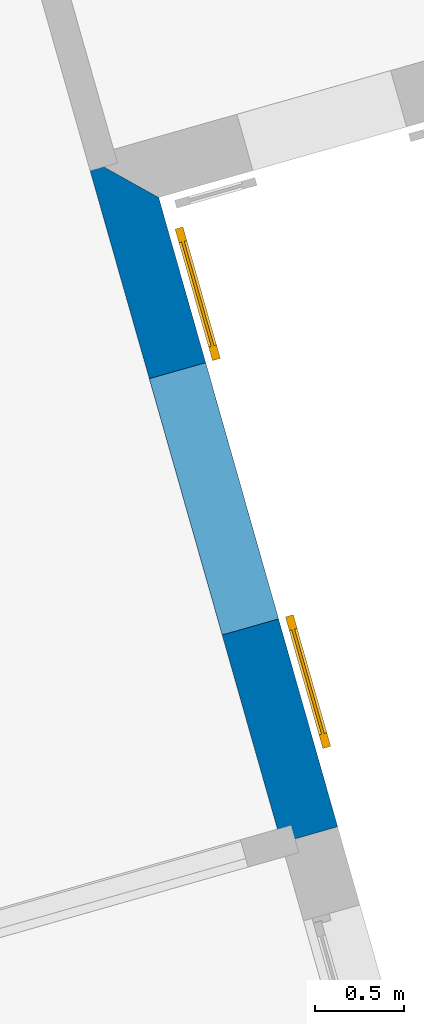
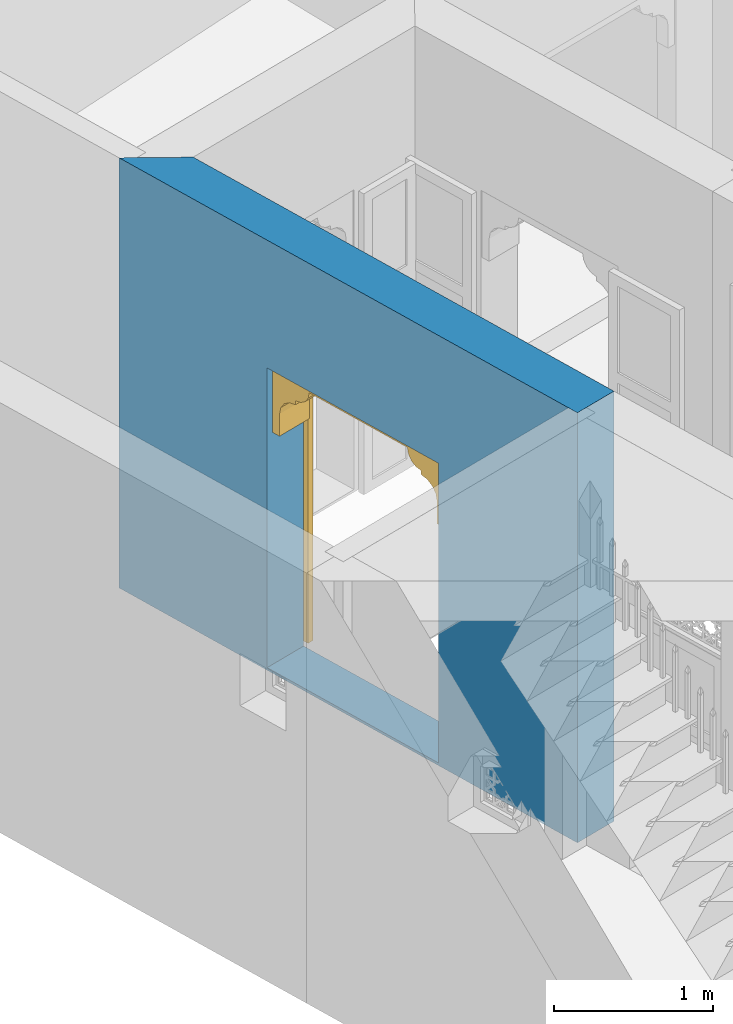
# One storey, part 5 of 14: 1 door, 1 wall, 1 opening.
"""IFC4 building model written with IfcOpenShell, lengths in metres."""

from ifc_helpers import new_model, si_unit, frame, origin, origin_with_axes, place, context, subcontext, project, spatial, polyline, outline, extrude, faceted_brep, source, transform, mapped, material, layer, layer_set, layer_usage, type_object, type_shapes, element, fill, save


model = new_model("IFC4")

# Units and contexts
model_context = context("Model", 3, world=origin_with_axes())
body_context = subcontext(model_context, "Body", "Model", "MODEL_VIEW")
ifc_project = project(units=[si_unit("PLANEANGLEUNIT", "RADIAN"), si_unit("MASSUNIT", "GRAM", prefix="KILO"), si_unit("FORCEUNIT", "NEWTON", prefix="KILO"), si_unit("LENGTHUNIT", "METRE"), si_unit("AREAUNIT", "SQUARE_METRE"), si_unit("VOLUMEUNIT", "CUBIC_METRE")], contexts=[model_context, model_context])

# Site, building, storey
site_placement = place(None, origin_with_axes())
site = spatial("IfcSite", under=ifc_project, at=site_placement, Name="Site plot-3", CompositionType="ELEMENT")
building_placement = place(None, origin_with_axes())
building = spatial("IfcBuilding", under=site, at=building_placement, Name="Building plot-3", CompositionType="ELEMENT")
storey_placement = place(None, origin_with_axes())
storey = spatial("IfcBuildingStorey", under=building, at=storey_placement, Name="plot-3 0", CompositionType="ELEMENT", Elevation=0.0)

# Wall, opening, door
ifc_material = material(Name="Masonry")
ifc_layer = layer(ifc_material, 0.33, ventilated=False)
ifc_layer_set = layer_set([ifc_layer], Name="exterior_0.08_0.25")
ifc_layer_usage = layer_usage(ifc_layer_set, "AXIS2", "POSITIVE", -0.25)
wall_type = type_object("IfcWallType", Name="exterior_0.08_0.25", PredefinedType="SOLIDWALL", material=ifc_layer_set)
wall_placement = place(storey_placement, frame((11.135823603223, 21.3489503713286, 0.0), z_axis=(0.0, 0.0, 1.0), x_axis=(-0.273606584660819, 0.961841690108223, 0.0)))
wall = element("IfcWall", 1, at=wall_placement, inside=storey, type_object=wall_type, material=ifc_layer_usage, Name="exterior", context=body_context, shape_type="SweptSolid", body=[
    extrude(outline(polyline([(-4.29388496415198e-15, 0.0799999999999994), (1.28938951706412e-14, -0.25), (3.68376585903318, -0.250000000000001), (4.01376585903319, 0.0800000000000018), (-4.29388496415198e-15, 0.0799999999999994)])), origin_with_axes(), (0.0, 0.0, 1.0), 3.3),
])
opening_placement = place(wall_placement, frame((1.21688292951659, 0.0, 0.02)))
opening = element("IfcOpeningElement", 2, at=opening_placement, cuts=wall, Name="My Opening", ObjectType="Opening", context=body_context, shape_type="SweptSolid", body=[
    extrude(outline(polyline([(0.0, -0.27), (1.5, -0.269999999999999), (1.5, 1.1), (-6.66133814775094e-16, 1.1), (0.0, -0.27)])), origin_with_axes(), (0.0, 0.0, 1.0), 2.3),
])
door_type = type_object("IfcDoorType", Name="arch-1500x2300", OperationType="SINGLE_SWING_LEFT", PredefinedType="NOTDEFINED")
shared_shape = source(origin(), body_context, "Body", "Brep", [
    faceted_brep([(-0.08, -0.02, 0.08), (-0.08, -0.02, 0.0), (-0.69, -0.02, 0.0), (-0.69, -0.02, 0.08), (-0.77, -0.02, 0.0), (-0.77, -0.02, 0.08), (-0.69, -0.035, 0.08), (-0.08, -0.035, 0.08), (0.0, -0.02, 0.08), (0.0, -0.02, 0.0), (-0.08, -0.066, 0.0), (-0.69, -0.066, 0.0), (-0.77, -0.066, 0.0), (-0.77, -0.066, 0.08), (-0.69, -0.02, 0.743333), (-0.77, -0.02, 0.743333), (-0.69, -0.035, 0.743333), (-0.08, -0.035, 0.743333), (-0.08, -0.02, 0.743333), (0.0, -0.02, 0.743333), (0.0, -0.066, 0.08), (0.0, -0.066, 0.0), (-0.69, -0.066, 0.08), (-0.08, -0.066, 0.08), (-0.77, -0.066, 0.743333), (-0.69, -0.02, 0.823333), (-0.77, -0.02, 0.823333), (0.0, -0.066, 0.743333), (0.0, -0.02, 0.823333), (-0.08, -0.02, 0.823333), (-0.08, -0.051, 0.08), (-0.69, -0.051, 0.08), (-0.69, -0.066, 0.743333), (-0.77, -0.066, 0.823333), (-0.69, -0.02, 1.486667), (-0.77, -0.02, 1.486667), (0.0, -0.066, 0.823333), (-0.08, -0.066, 0.743333), (0.0, -0.02, 1.486667), (-0.08, -0.02, 1.486667), (-0.08, -0.051, 0.743333), (-0.69, -0.051, 0.743333), (-0.69, -0.066, 0.823333), (-0.77, -0.066, 1.486667), (-0.69, -0.035, 0.823333), (-0.08, -0.035, 0.823333), (-0.69, -0.035, 1.486667), (-0.69, -0.02, 1.566667), (-0.77, -0.02, 1.566667), (0.0, -0.066, 1.486667), (-0.08, -0.066, 0.823333), (-0.08, -0.035, 1.486667), (0.0, -0.02, 1.566667), (-0.08, -0.02, 1.566667), (-0.69, -0.066, 1.486667), (-0.77, -0.066, 1.566667), (-0.69, -0.02, 2.23), (-0.77, -0.02, 2.23), (0.0, -0.066, 1.566667), (-0.08, -0.066, 1.486667), (0.0, -0.02, 2.23), (-0.08, -0.02, 2.23), (-0.08, -0.051, 0.823333), (-0.69, -0.051, 0.823333), (-0.69, -0.051, 1.486667), (-0.69, -0.066, 1.566667), (-0.77, -0.066, 2.23), (-0.69, -0.035, 1.566667), (-0.08, -0.035, 1.566667), (-0.69, -0.035, 2.23), (-0.69, -0.02, 2.31), (-0.77, -0.02, 2.31), (0.0, -0.066, 2.23), (-0.08, -0.066, 1.566667), (-0.08, -0.051, 1.486667), (-0.08, -0.035, 2.23), (0.0, -0.02, 2.31), (-0.08, -0.02, 2.31), (-0.69, -0.066, 2.23), (-0.77, -0.066, 2.31), (-0.69, -0.066, 2.31), (0.0, -0.066, 2.31), (-0.08, -0.066, 2.23), (-0.08, -0.066, 2.31), (-0.08, -0.051, 1.566667), (-0.69, -0.051, 1.566667), (-0.69, -0.051, 2.23), (-0.08, -0.051, 2.23), (2.19, -0.02, 0.08), (2.19, -0.02, 0.0), (1.58, -0.02, 0.0), (1.58, -0.02, 0.08), (2.27, -0.02, 0.08), (2.27, -0.02, 0.0), (1.58, -0.035, 0.08), (2.19, -0.035, 0.08), (1.5, -0.02, 0.0), (1.5, -0.02, 0.08), (2.19, -0.066, 0.0), (1.58, -0.066, 0.0), (2.27, -0.066, 0.08), (2.27, -0.066, 0.0), (2.27, -0.02, 0.743333), (2.19, -0.02, 0.743333), (2.19, -0.035, 0.743333), (1.58, -0.035, 0.743333), (1.58, -0.02, 0.743333), (1.5, -0.02, 0.743333), (1.5, -0.066, 0.0), (1.5, -0.066, 0.08), (1.58, -0.066, 0.08), (2.19, -0.066, 0.08), (2.27, -0.066, 0.743333), (2.27, -0.02, 0.823333), (2.19, -0.02, 0.823333), (1.5, -0.066, 0.743333), (1.58, -0.02, 0.823333), (1.5, -0.02, 0.823333), (2.19, -0.051, 0.08), (1.58, -0.051, 0.08), (2.19, -0.066, 0.743333), (2.27, -0.066, 0.823333), (2.27, -0.02, 1.486667), (2.19, -0.02, 1.486667), (1.5, -0.066, 0.823333), (1.58, -0.066, 0.743333), (1.58, -0.02, 1.486667), (1.5, -0.02, 1.486667), (1.58, -0.051, 0.743333), (2.19, -0.051, 0.743333), (2.19, -0.066, 0.823333), (2.27, -0.066, 1.486667), (1.58, -0.035, 0.823333), (2.19, -0.035, 0.823333), (2.19, -0.035, 1.486667), (2.27, -0.02, 1.566667), (2.19, -0.02, 1.566667), (1.5, -0.066, 1.486667), (1.58, -0.066, 0.823333), (1.58, -0.035, 1.486667), (1.58, -0.02, 1.566667), (1.5, -0.02, 1.566667), (2.19, -0.066, 1.486667), (2.27, -0.066, 1.566667), (2.27, -0.02, 2.23), (2.19, -0.02, 2.23), (1.5, -0.066, 1.566667), (1.58, -0.066, 1.486667), (1.58, -0.02, 2.23), (1.5, -0.02, 2.23), (2.19, -0.051, 0.823333), (1.58, -0.051, 0.823333), (2.19, -0.051, 1.486667), (2.19, -0.066, 1.566667), (2.27, -0.066, 2.23), (1.58, -0.035, 1.566667), (2.19, -0.035, 1.566667), (2.19, -0.035, 2.23), (2.27, -0.02, 2.31), (2.19, -0.02, 2.31), (1.5, -0.066, 2.23), (1.58, -0.066, 1.566667), (1.58, -0.051, 1.486667), (1.58, -0.035, 2.23), (1.58, -0.02, 2.31), (1.5, -0.02, 2.31), (2.19, -0.066, 2.23), (2.27, -0.066, 2.31), (2.19, -0.066, 2.31), (1.5, -0.066, 2.31), (1.58, -0.066, 2.23), (1.58, -0.066, 2.31), (2.19, -0.051, 1.566667), (1.58, -0.051, 1.566667), (2.19, -0.051, 2.23), (1.58, -0.051, 2.23), (1.5, 0.03, 1.78), (1.5, 0.03, 1.95), (1.44, 0.03, 1.95), (1.44, 0.03, 1.78), (1.44, 0.3, 1.95), (1.44, 0.3, 1.78), (1.5, 0.03, 2.12), (1.429, 0.03, 2.004), (1.5, 0.3, 1.78), (1.5, 0.3, 1.95), (1.429, 0.3, 2.004), (1.399, 0.03, 2.049), (1.5, 0.3, 2.12), (1.399, 0.3, 2.049), (1.354, 0.03, 2.079), (1.5, 0.3, 2.29), (1.5, 0.03, 2.29), (1.354, 0.3, 2.079), (1.3, 0.03, 2.09), (1.3, 0.03, 2.12), (1.254, 0.03, 2.129), (1.18, 0.3, 2.29), (1.18, 0.03, 2.29), (1.3, 0.3, 2.12), (1.254, 0.3, 2.129), (1.3, 0.3, 2.09), (1.215, 0.03, 2.155), (1.189, 0.3, 2.194), (1.18, 0.3, 2.24), (1.18, 0.03, 2.24), (1.189, 0.03, 2.194), (1.215, 0.3, 2.155), (0.06, 0.03, 1.78), (0.06, 0.03, 1.95), (0.0, 0.03, 1.95), (0.0, 0.03, 1.78), (0.06, 0.3, 1.78), (0.06, 0.3, 1.95), (0.071, 0.03, 2.004), (0.0, 0.03, 2.12), (0.0, 0.3, 1.95), (0.0, 0.3, 1.78), (0.071, 0.3, 2.004), (0.101, 0.03, 2.049), (0.0, 0.3, 2.12), (0.101, 0.3, 2.049), (0.146, 0.03, 2.079), (0.0, 0.03, 2.29), (0.0, 0.3, 2.29), (0.146, 0.3, 2.079), (0.2, 0.03, 2.12), (0.2, 0.03, 2.09), (0.246, 0.03, 2.129), (0.32, 0.03, 2.29), (0.32, 0.3, 2.29), (0.246, 0.3, 2.129), (0.2, 0.3, 2.12), (0.2, 0.3, 2.09), (0.285, 0.03, 2.155), (0.32, 0.3, 2.24), (0.311, 0.3, 2.194), (0.311, 0.03, 2.194), (0.32, 0.03, 2.24), (0.285, 0.3, 2.155)], [[[0, 1, 2, 3]], [[4, 5, 3, 2]], [[0, 3, 6, 7]], [[1, 0, 8, 9]], [[2, 1, 10, 11]], [[5, 4, 12, 13]], [[14, 3, 5, 15]], [[4, 2, 11, 12]], [[3, 14, 16, 6]], [[6, 16, 17, 7]], [[18, 0, 7, 17]], [[0, 18, 19, 8]], [[9, 8, 20, 21]], [[1, 9, 21, 10]], [[22, 11, 10, 23]], [[13, 12, 11, 22]], [[15, 5, 13, 24]], [[25, 14, 15, 26]], [[14, 18, 17, 16]], [[8, 19, 27, 20]], [[28, 19, 18, 29]], [[23, 10, 21, 20]], [[22, 23, 30, 31]], [[22, 32, 24, 13]], [[26, 15, 24, 33]], [[29, 18, 14, 25]], [[34, 25, 26, 35]], [[19, 28, 36, 27]], [[20, 27, 37, 23]], [[38, 28, 29, 39]], [[23, 37, 40, 30]], [[41, 31, 30, 40]], [[32, 22, 31, 41]], [[32, 42, 33, 24]], [[35, 26, 33, 43]], [[29, 25, 44, 45]], [[25, 34, 46, 44]], [[47, 34, 35, 48]], [[28, 38, 49, 36]], [[27, 36, 50, 37]], [[39, 29, 45, 51]], [[52, 38, 39, 53]], [[37, 32, 41, 40]], [[37, 50, 42, 32]], [[42, 54, 43, 33]], [[48, 35, 43, 55]], [[44, 46, 51, 45]], [[34, 39, 51, 46]], [[34, 47, 53, 39]], [[56, 47, 48, 57]], [[38, 52, 58, 49]], [[36, 49, 59, 50]], [[60, 52, 53, 61]], [[42, 50, 62, 63]], [[54, 42, 63, 64]], [[54, 65, 55, 43]], [[57, 48, 55, 66]], [[53, 47, 67, 68]], [[47, 56, 69, 67]], [[70, 56, 57, 71]], [[52, 60, 72, 58]], [[49, 58, 73, 59]], [[50, 59, 74, 62]], [[61, 53, 68, 75]], [[76, 60, 61, 77]], [[64, 63, 62, 74]], [[59, 54, 64, 74]], [[65, 54, 59, 73]], [[65, 78, 66, 55]], [[71, 57, 66, 79]], [[67, 69, 75, 68]], [[56, 61, 75, 69]], [[77, 61, 56, 70]], [[70, 71, 79, 80]], [[60, 76, 81, 72]], [[58, 72, 82, 73]], [[76, 77, 83, 81]], [[65, 73, 84, 85]], [[78, 65, 85, 86]], [[78, 80, 79, 66]], [[77, 70, 80, 83]], [[72, 81, 83, 82]], [[73, 82, 87, 84]], [[86, 85, 84, 87]], [[82, 78, 86, 87]], [[82, 83, 80, 78]], [[88, 89, 90, 91]], [[89, 88, 92, 93]], [[94, 95, 88, 91]], [[96, 97, 91, 90]], [[98, 99, 90, 89]], [[100, 101, 93, 92]], [[102, 92, 88, 103]], [[101, 98, 89, 93]], [[95, 104, 103, 88]], [[94, 105, 104, 95]], [[105, 94, 91, 106]], [[97, 107, 106, 91]], [[108, 109, 97, 96]], [[99, 108, 96, 90]], [[110, 99, 98, 111]], [[111, 98, 101, 100]], [[112, 100, 92, 102]], [[113, 102, 103, 114]], [[104, 105, 106, 103]], [[109, 115, 107, 97]], [[116, 106, 107, 117]], [[109, 108, 99, 110]], [[118, 119, 110, 111]], [[100, 112, 120, 111]], [[121, 112, 102, 113]], [[114, 103, 106, 116]], [[122, 113, 114, 123]], [[115, 124, 117, 107]], [[110, 125, 115, 109]], [[126, 116, 117, 127]], [[119, 128, 125, 110]], [[128, 119, 118, 129]], [[129, 118, 111, 120]], [[112, 121, 130, 120]], [[131, 121, 113, 122]], [[132, 133, 114, 116]], [[133, 134, 123, 114]], [[135, 122, 123, 136]], [[124, 137, 127, 117]], [[125, 138, 124, 115]], [[139, 132, 116, 126]], [[140, 126, 127, 141]], [[128, 129, 120, 125]], [[120, 130, 138, 125]], [[121, 131, 142, 130]], [[143, 131, 122, 135]], [[132, 139, 134, 133]], [[134, 139, 126, 123]], [[126, 140, 136, 123]], [[144, 135, 136, 145]], [[137, 146, 141, 127]], [[138, 147, 137, 124]], [[148, 140, 141, 149]], [[150, 151, 138, 130]], [[152, 150, 130, 142]], [[131, 143, 153, 142]], [[154, 143, 135, 144]], [[155, 156, 136, 140]], [[156, 157, 145, 136]], [[158, 144, 145, 159]], [[146, 160, 149, 141]], [[147, 161, 146, 137]], [[151, 162, 147, 138]], [[163, 155, 140, 148]], [[164, 148, 149, 165]], [[162, 151, 150, 152]], [[162, 152, 142, 147]], [[161, 147, 142, 153]], [[143, 154, 166, 153]], [[167, 154, 144, 158]], [[155, 163, 157, 156]], [[157, 163, 148, 145]], [[159, 145, 148, 164]], [[168, 167, 158, 159]], [[160, 169, 165, 149]], [[161, 170, 160, 146]], [[169, 171, 164, 165]], [[172, 173, 161, 153]], [[174, 172, 153, 166]], [[154, 167, 168, 166]], [[171, 168, 159, 164]], [[170, 171, 169, 160]], [[173, 175, 170, 161]], [[175, 173, 172, 174]], [[175, 174, 166, 170]], [[166, 168, 171, 170]], [[176, 177, 178, 179]], [[180, 181, 179, 178]], [[177, 182, 183, 178]], [[177, 176, 184, 185]], [[181, 184, 176, 179]], [[181, 180, 185, 184]], [[186, 180, 178, 183]], [[182, 187, 183]], [[182, 177, 185, 188]], [[180, 186, 188, 185]], [[189, 186, 183, 187]], [[182, 190, 187]], [[188, 191, 192, 182]], [[188, 186, 189]], [[193, 189, 187, 190]], [[194, 190, 182, 195]], [[182, 192, 196, 195]], [[192, 191, 197, 198]], [[199, 200, 191, 188]], [[188, 189, 193]], [[201, 193, 190, 194]], [[199, 201, 194, 195]], [[200, 199, 195, 196]], [[192, 202, 196]], [[191, 203, 204, 197]], [[192, 198, 205, 206]], [[207, 191, 200]], [[199, 188, 193, 201]], [[207, 200, 196, 202]], [[192, 206, 202]], [[204, 203, 206, 205]], [[203, 191, 207]], [[203, 207, 202, 206]], [[208, 209, 210, 211]], [[209, 208, 212, 213]], [[209, 214, 215, 210]], [[211, 210, 216, 217]], [[208, 211, 217, 212]], [[217, 216, 213, 212]], [[214, 209, 213, 218]], [[214, 219, 215]], [[220, 216, 210, 215]], [[216, 220, 218, 213]], [[219, 214, 218, 221]], [[219, 222, 215]], [[215, 223, 224, 220]], [[221, 218, 220]], [[222, 219, 221, 225]], [[226, 215, 222, 227]], [[226, 228, 223, 215]], [[229, 230, 224, 223]], [[220, 224, 231, 232]], [[225, 221, 220]], [[227, 222, 225, 233]], [[226, 227, 233, 232]], [[228, 226, 232, 231]], [[228, 234, 223]], [[230, 235, 236, 224]], [[237, 238, 229, 223]], [[231, 224, 239]], [[233, 225, 220, 232]], [[234, 228, 231, 239]], [[234, 237, 223]], [[238, 237, 236, 235]], [[239, 224, 236]], [[237, 234, 239, 236]], [[238, 235, 204, 205]], [[235, 230, 197, 204]], [[229, 238, 205, 198]], [[230, 229, 198, 197]]]),
])
type_shapes(door_type, [shared_shape])
door_placement = place(storey_placement, frame((11.0625736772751, 22.5932728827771, 0.02), z_axis=(0.0, 0.0, 1.0), x_axis=(-0.410409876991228, 1.44276253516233, 0.0)))
door = element("IfcDoor", 3, at=door_placement, inside=storey, type_object=door_type, Name="circulation sahn door", OverallHeight=2.3, OverallWidth=1.5, context=body_context, shape_type="MappedRepresentation", body=[
    mapped(shared_shape, transform((0.0, 0.0, 0.0), scale=1.0)),
])
fill(opening, door)

save(model, "model.ifc")
